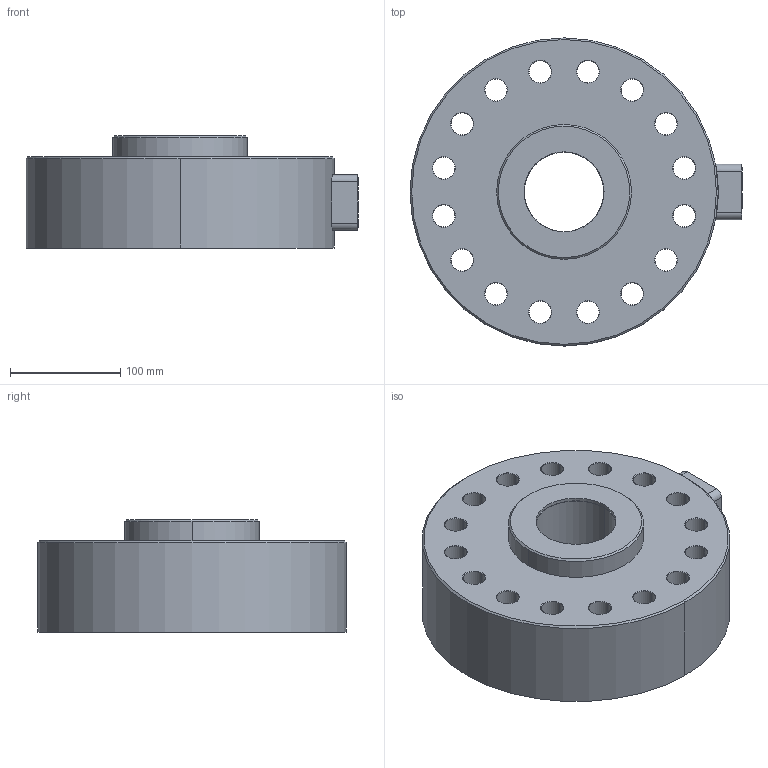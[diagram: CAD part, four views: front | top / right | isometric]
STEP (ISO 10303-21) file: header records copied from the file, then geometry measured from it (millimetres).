
FILE_DESCRIPTION (( 'STEP AP203' ), '1' );
FILE_NAME ('Interface 1244-1200KN.STEP', '2011-06-07T17:49:10', ( ' ' ), ( '' ), 'SwSTEP 2.0', 'SolidWorks 2002349', '' );
FILE_SCHEMA (( 'CONFIG_CONTROL_DESIGN' ));
Length unit declared in the file: inch
Products named in the file (1): Interface 1244-1200KN
Bounding box: 300.94 x 279.3 x 101.6 mm (x, y, z)
Volume: 4454378.7 mm3; surface area: 304389.8 mm2
Topology: 1 solids, 1 shells, 358 faces, 893 edges, 576 vertices
Faces by surface type: cylinder 171, plane 110, cone 48, bspline 26, sphere 3
Entity records: 12481 total; most frequent: CARTESIAN_POINT 3926, ORIENTED_EDGE 1786, DIRECTION 1750, EDGE_CURVE 893, AXIS2_PLACEMENT_3D 708, VERTEX_POINT 576, EDGE_LOOP 449, CIRCLE 375
